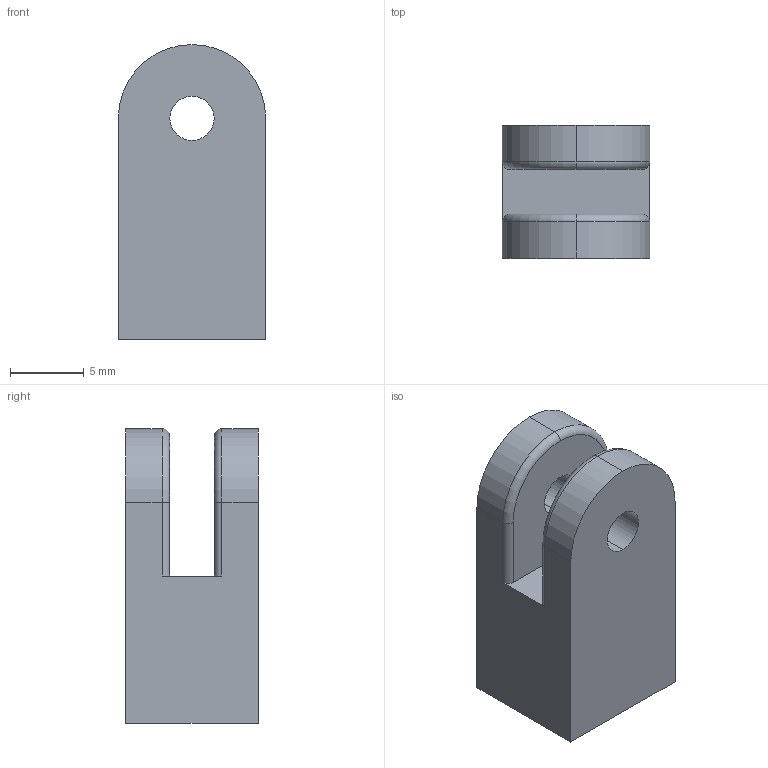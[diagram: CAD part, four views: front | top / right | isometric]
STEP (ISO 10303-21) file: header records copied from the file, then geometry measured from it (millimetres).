
FILE_DESCRIPTION (( 'STEP AP214' ), '1' );
FILE_NAME ('Schienenlager_passung.STEP', '2025-11-27T20:14:16', ( '' ), ( '' ), 'SwSTEP 2.0', 'SolidWorks 2025', '' );
FILE_SCHEMA (( 'AUTOMOTIVE_DESIGN' ));
Length unit declared in the file: millimetre
Products named in the file (1): Schienenlager_passung
Bounding box: 10 x 9 x 20 mm (x, y, z)
Volume: 1386.4 mm3; surface area: 1027.4 mm2
Topology: 1 solids, 1 shells, 24 faces, 60 edges, 38 vertices
Faces by surface type: cylinder 12, plane 8, torus 4
Entity records: 757 total; most frequent: DIRECTION 140, CARTESIAN_POINT 123, ORIENTED_EDGE 120, EDGE_CURVE 60, AXIS2_PLACEMENT_3D 55, VERTEX_POINT 38, CIRCLE 30, LINE 30
